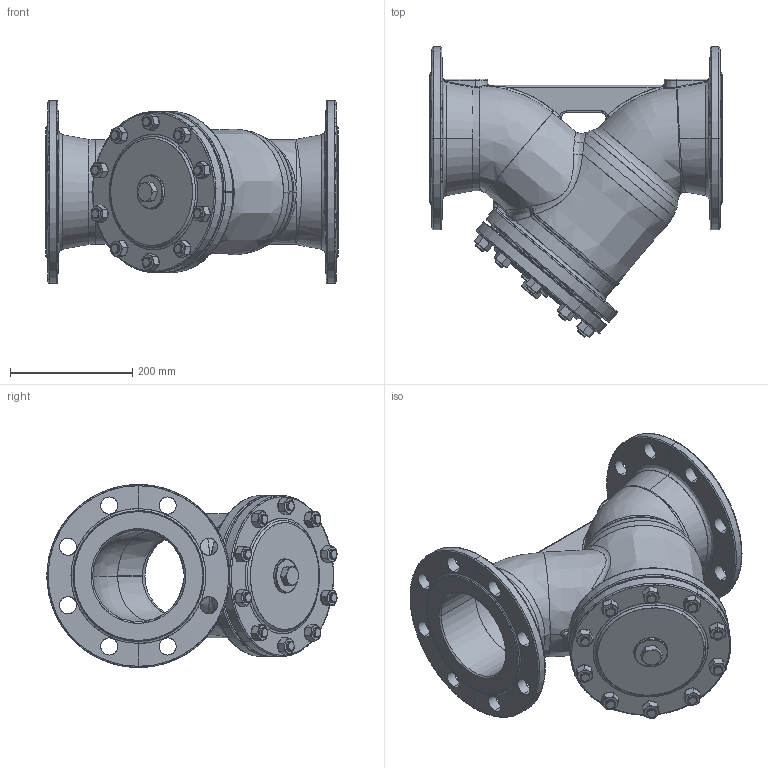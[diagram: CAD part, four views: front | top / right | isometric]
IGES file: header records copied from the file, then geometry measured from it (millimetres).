
Start section: SolidWorks IGES file using analytic representation for surfaces
Global section: file name: E:\SOLID WORKS 98\821\821_DN150_PN25.IGS; native system: SolidWorks 2010; preprocessor: SolidWorks 2010; author: alisowsk; date: 100113.102748; units: millimetre
Bounding box: 480 x 475.63 x 300 mm (x, y, z)
Surface area: 1116924.4 mm2 (no closed solid volume)
Topology: 0 solids, 0 shells, 1026 faces, 15375 edges, 15365 vertices
Faces by surface type: revolution 570, bspline 456
